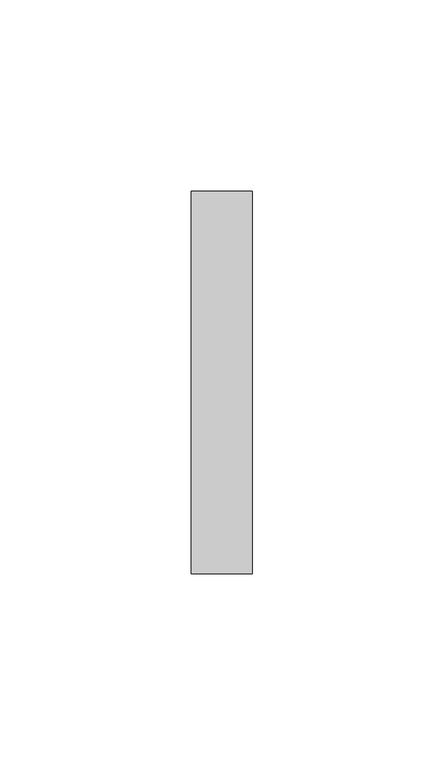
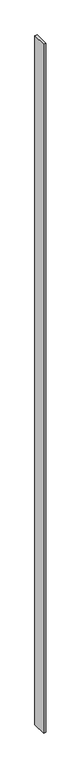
"""IFC4 building model written with IfcOpenShell, lengths in millimetres: plate geometry, システム パネルなし : なし."""

from ifc_helpers import new_model, si_unit, origin, origin_with_axes, place, context, project, spatial, polyline, outline, extrude, source, transform, mapped, element, save


def plate_64bb2212(model_context):
    return source(origin(), model_context, "Body", "SweptSolid", [
        extrude(outline(polyline([(7.9999998, -50.0), (-7.9999998, -50.0), (-7.9999998, 50.0), (7.9999998, 50.0), (7.9999998, -50.0)])), origin_with_axes(), (0.0, 0.0, 1.0), 4871.75),
    ])


if __name__ == "__main__":
    model = new_model("IFC4")
    model_context = context("Model", 3, world=origin())
    ifc_project = project(units=[si_unit("LENGTHUNIT", "METRE", prefix="MILLI")], contexts=[model_context])
    site = spatial("IfcSite", under=ifc_project)
    building = spatial("IfcBuilding", under=site)
    placement = place(None, origin())
    plate_shape = plate_64bb2212(model_context)
    element("IfcPlate", 1, ObjectType="システム パネルなし : なし", at=placement, inside=building, context=model_context, shape_type="MappedRepresentation", body=[
        mapped(plate_shape, transform((0.0, 0.0, 0.0), x_axis=(1.0, 0.0, 0.0), y_axis=(0.0, 1.0, 0.0), z_axis=(0.0, 0.0, 1.0))),
    ])
    save(model, "model.ifc")
